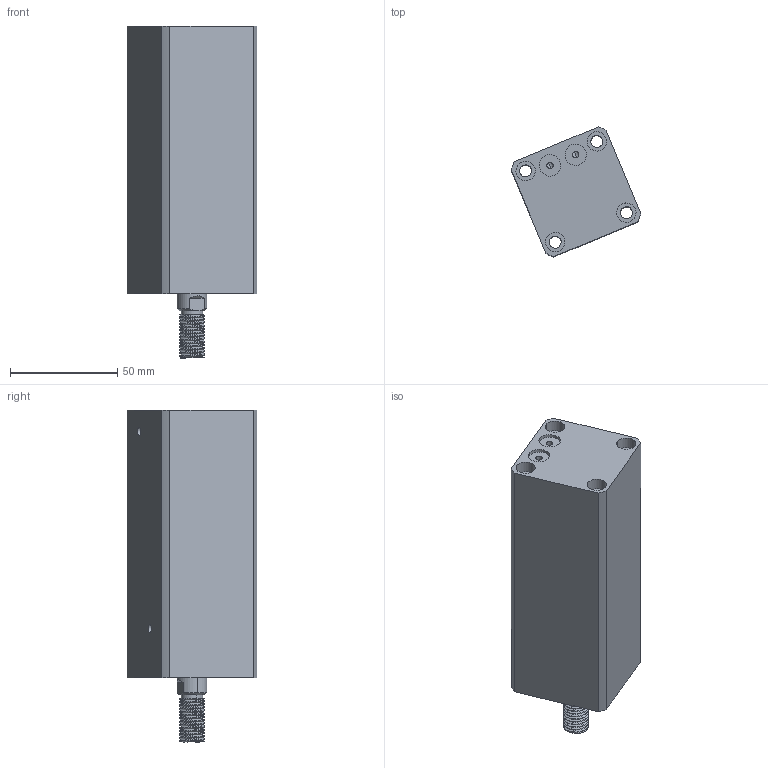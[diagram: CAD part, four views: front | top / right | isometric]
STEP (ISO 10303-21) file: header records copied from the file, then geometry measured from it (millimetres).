
FILE_DESCRIPTION (( 'STEP AP214' ), '1' );
FILE_NAME ('chtb-sdmb25x80w_asm.STEP', '2018-05-24T02:41:49', ( 'Windows' ), ( 'Microsoft' ), 'SwSTEP 2.0', 'SolidWorks 2015', '' );
FILE_SCHEMA (( 'AUTOMOTIVE_DESIGN' ));
Length unit declared in the file: millimetre
Products named in the file (4): CHTB-SDMB25X80WHSG; CHTB-SDMB25X80NBT; CHTB-25QG; chtb-sdmb25x80w_asm
Assembly tree (3 placements, depth 2):
  chtb-sdmb25x80w_asm
    CHTB-25QG
    CHTB-SDMB25X80NBT
    CHTB-SDMB25X80WHSG
Bounding box: 60.55 x 60.55 x 155 mm (x, y, z)
Volume: 246270 mm3; surface area: 61417.4 mm2
Topology: 3 solids, 3 shells, 176 faces, 476 edges, 323 vertices
Faces by surface type: cylinder 118, plane 37, bspline 12, cone 9
Entity records: 10721 total; most frequent: CARTESIAN_POINT 6406, ORIENTED_EDGE 944, DIRECTION 765, EDGE_CURVE 472, VERTEX_POINT 323, AXIS2_PLACEMENT_3D 310, EDGE_LOOP 215, ADVANCED_FACE 176
